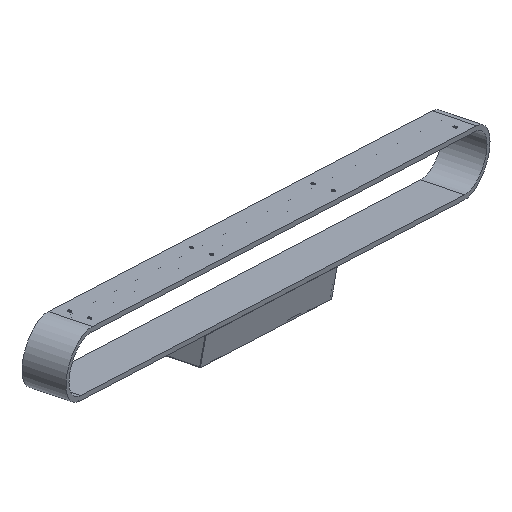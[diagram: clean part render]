
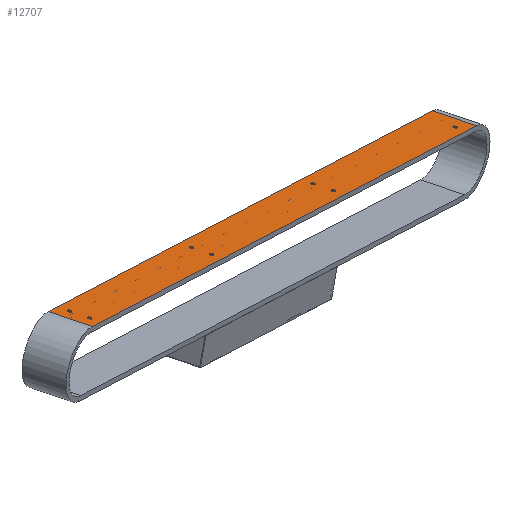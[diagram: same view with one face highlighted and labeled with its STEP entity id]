
A CAD part, isometric view. The second image highlights one B-rep face of the part: STEP entity #12707.
In plain terms, the highlighted planar face has unit normal (0.288, 0.063, 0.956) as drawn and (0, 0, 1) by its records, which use the part's own axes.
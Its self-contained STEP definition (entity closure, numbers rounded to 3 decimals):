
#129 = CARTESIAN_POINT ( 'NONE',  ( -141.02, 50., 36.178 ) ) ;
#1096 = LINE ( 'NONE', #13285, #12266 ) ;
#1528 = EDGE_CURVE ( 'NONE', #3277, #7962, #1096, .T. ) ;
#1762 = ORIENTED_EDGE ( 'NONE', *, *, #8245, .F. ) ;
#1977 = CARTESIAN_POINT ( 'NONE',  ( 678.98, 50., 36.178 ) ) ;
#3021 = VECTOR ( 'NONE', #4111, 1000. ) ;
#3277 = VERTEX_POINT ( 'NONE', #129 ) ;
#4111 = DIRECTION ( 'NONE',  ( 1., 0., 0. ) ) ;
#4654 = EDGE_CURVE ( 'NONE', #3277, #12157, #7901, .T. ) ;
#4905 = DIRECTION ( 'NONE',  ( 1., 0., 0. ) ) ;
#5095 = CARTESIAN_POINT ( 'NONE',  ( -141.02, 0., 36.178 ) ) ;
#5255 = VECTOR ( 'NONE', #13315, 1000. ) ;
#5860 = EDGE_LOOP ( 'NONE', ( #7700, #1762, #11792, #8475 ) ) ;
#7662 = DIRECTION ( 'NONE',  ( 0., -1., 0. ) ) ;
#7700 = ORIENTED_EDGE ( 'NONE', *, *, #13197, .T. ) ;
#7901 = LINE ( 'NONE', #10281, #12300 ) ;
#7962 = VERTEX_POINT ( 'NONE', #10232 ) ;
#8245 = EDGE_CURVE ( 'NONE', #7962, #13258, #12139, .T. ) ;
#8475 = ORIENTED_EDGE ( 'NONE', *, *, #4654, .T. ) ;
#9183 = PLANE ( 'NONE',  #11628 ) ;
#9823 = CARTESIAN_POINT ( 'NONE',  ( 678.98, 0., 36.178 ) ) ;
#10232 = CARTESIAN_POINT ( 'NONE',  ( 678.98, 50., 36.178 ) ) ;
#10281 = CARTESIAN_POINT ( 'NONE',  ( -141.02, 50., 36.178 ) ) ;
#10621 = FACE_OUTER_BOUND ( 'NONE', #5860, .T. ) ;
#11628 = AXIS2_PLACEMENT_3D ( 'NONE', #1977, #15199, #11647 ) ;
#11647 = DIRECTION ( 'NONE',  ( -1., 0., 0. ) ) ;
#11792 = ORIENTED_EDGE ( 'NONE', *, *, #1528, .F. ) ;
#12139 = LINE ( 'NONE', #13395, #5255 ) ;
#12157 = VERTEX_POINT ( 'NONE', #5095 ) ;
#12266 = VECTOR ( 'NONE', #4905, 1000. ) ;
#12300 = VECTOR ( 'NONE', #7662, 1000. ) ;
#12707 = ADVANCED_FACE ( 'NONE', ( #10621 ), #9183, .F. ) ;
#13197 = EDGE_CURVE ( 'NONE', #12157, #13258, #13517, .T. ) ;
#13258 = VERTEX_POINT ( 'NONE', #14635 ) ;
#13285 = CARTESIAN_POINT ( 'NONE',  ( 678.98, 50., 36.178 ) ) ;
#13315 = DIRECTION ( 'NONE',  ( 0., -1., 0. ) ) ;
#13395 = CARTESIAN_POINT ( 'NONE',  ( 678.98, 50., 36.178 ) ) ;
#13517 = LINE ( 'NONE', #9823, #3021 ) ;
#14635 = CARTESIAN_POINT ( 'NONE',  ( 678.98, 0., 36.178 ) ) ;
#15199 = DIRECTION ( 'NONE',  ( 0., 0., -1. ) ) ;
